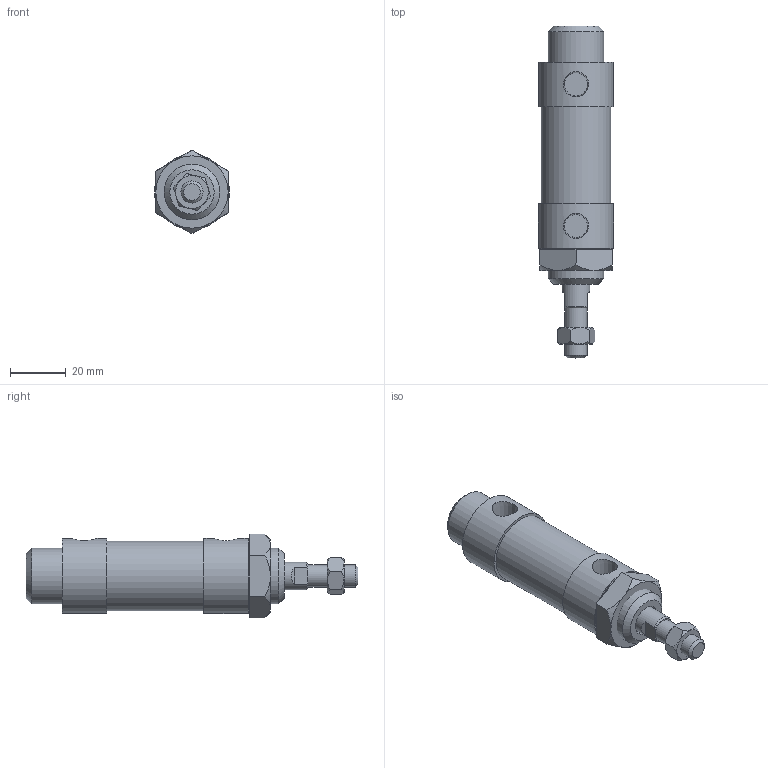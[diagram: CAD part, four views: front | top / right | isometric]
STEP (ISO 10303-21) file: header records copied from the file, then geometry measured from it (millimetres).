
FILE_DESCRIPTION(/* description */ ('Unknown'),/* implementation_level */ '2;1');
FILE_NAME(/* name */ 'WK20-0',/* time_stamp */ '2026-07-17T16:28:16+08:00',/* author */ ('Unknown'),/* organization */ ('Unknown'),/* preprocessor_version */ 'ST-DEVELOPER v16.7',/* originating_system */ 'DEX',/* authorisation */ $);
FILE_SCHEMA (('CONFIG_CONTROL_DESIGN'));
Length unit declared in the file: millimetre
Products named in the file (7): WK20; WK20_«eÿ; WK20_鋁; WK20_後; WK20_､ﾟｶbｬ｡_;m^XD}; M20-1.5P-8_Á³Traditional)_Taiwan.950; M8-1.25P-6_螺
Assembly tree (6 placements, depth 2):
  WK20
    WK20_«eÿ
    WK20_鋁
    WK20_後
    WK20_､ﾟｶbｬ｡_;m^XD}
    M20-1.5P-8_Á³Traditional)_Taiwan.950
    M8-1.25P-6_螺
Bounding box: 27 x 119.5 x 30.02 mm (x, y, z)
Volume: 48000.1 mm3; surface area: 20238.2 mm2
Topology: 6 solids, 6 shells, 80 faces, 163 edges, 102 vertices
Faces by surface type: plane 43, cone 22, cylinder 15
Full cylindrical faces by diameter (mm): 6.8 x1, 8 x1, 10 x2, 18.376 x1, 19.5 x1, 20 x3, 22 x2, 25 x1, 26 x1, 27 x2
Entity records: 2657 total; most frequent: CARTESIAN_POINT 467, DIRECTION 330, ORIENTED_EDGE 250, AXIS2_PLACEMENT_3D 148, EDGE_CURVE 125, EDGE_LOOP 124, FACE_BOUND 124, VERTEX_POINT 93
